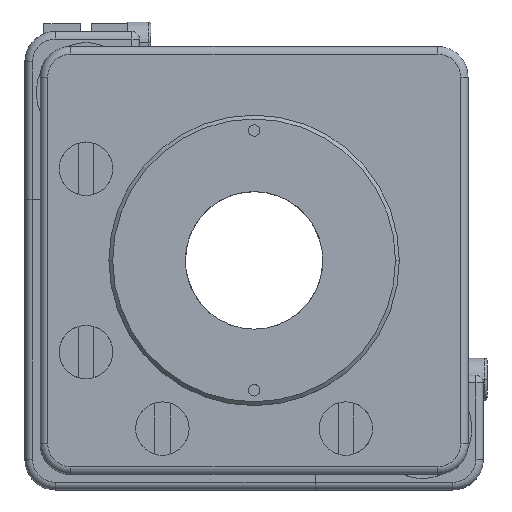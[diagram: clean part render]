
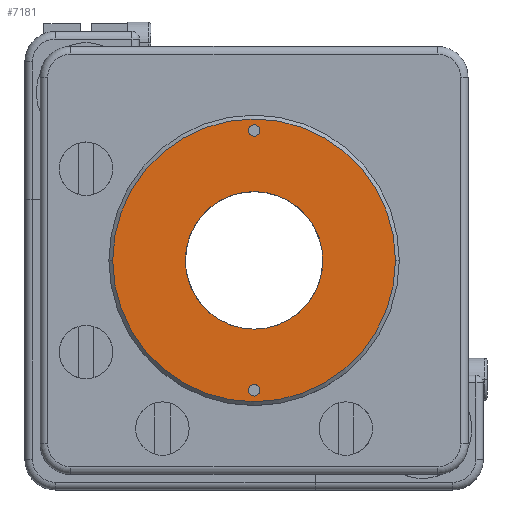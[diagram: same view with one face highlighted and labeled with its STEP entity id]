
A CAD part, top view. The second image highlights one B-rep face of the part: STEP entity #7181.
In plain terms, the highlighted planar face has unit normal (0, 0, 1).
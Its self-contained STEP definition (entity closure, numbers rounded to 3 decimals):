
#147 = ORIENTED_EDGE ( 'NONE', *, *, #16681, .F. ) ;
#667 = VERTEX_POINT ( 'NONE', #8948 ) ;
#1618 = DIRECTION ( 'NONE',  ( 0., 0., 1. ) ) ;
#1679 = DIRECTION ( 'NONE',  ( 0., 0., 1. ) ) ;
#1809 = CIRCLE ( 'NONE', #12187, 0.75 ) ;
#1869 = EDGE_LOOP ( 'NONE', ( #5632, #9952 ) ) ;
#2575 = VERTEX_POINT ( 'NONE', #20808 ) ;
#2887 = DIRECTION ( 'NONE',  ( 0., 0., 1. ) ) ;
#2952 = DIRECTION ( 'NONE',  ( 1., 0., 0. ) ) ;
#3269 = CARTESIAN_POINT ( 'NONE',  ( 1.496, -0.23, 28. ) ) ;
#3643 = VERTEX_POINT ( 'NONE', #19716 ) ;
#4001 = DIRECTION ( 'NONE',  ( 0., 0., 1. ) ) ;
#4397 = DIRECTION ( 'NONE',  ( 0., 0., 1. ) ) ;
#4931 = DIRECTION ( 'NONE',  ( 0., 0., 1. ) ) ;
#5031 = DIRECTION ( 'NONE',  ( 1., 0., 0. ) ) ;
#5632 = ORIENTED_EDGE ( 'NONE', *, *, #18279, .F. ) ;
#5983 = ORIENTED_EDGE ( 'NONE', *, *, #15258, .T. ) ;
#6154 = CARTESIAN_POINT ( 'NONE',  ( 0.746, 16.77, 28. ) ) ;
#6928 = EDGE_LOOP ( 'NONE', ( #11648, #147 ) ) ;
#6949 = CIRCLE ( 'NONE', #6961, 0.75 ) ;
#6961 = AXIS2_PLACEMENT_3D ( 'NONE', #13337, #2887, #15098 ) ;
#7181 = ADVANCED_FACE ( 'NONE', ( #10446, #9366, #12121, #9905 ), #18582, .T. ) ;
#7372 = CARTESIAN_POINT ( 'NONE',  ( 2.246, -17.23, 28. ) ) ;
#7411 = DIRECTION ( 'NONE',  ( 0., 0., 1. ) ) ;
#7665 = VERTEX_POINT ( 'NONE', #15764 ) ;
#7806 = AXIS2_PLACEMENT_3D ( 'NONE', #3269, #15490, #5031 ) ;
#7867 = EDGE_LOOP ( 'NONE', ( #15197, #5983 ) ) ;
#8032 = EDGE_LOOP ( 'NONE', ( #10328, #13406 ) ) ;
#8059 = CIRCLE ( 'NONE', #8571, 0.75 ) ;
#8368 = CIRCLE ( 'NONE', #16758, 9. ) ;
#8571 = AXIS2_PLACEMENT_3D ( 'NONE', #14437, #4001, #16199 ) ;
#8590 = VERTEX_POINT ( 'NONE', #16068 ) ;
#8948 = CARTESIAN_POINT ( 'NONE',  ( 19.996, -0.23, 28. ) ) ;
#9366 = FACE_BOUND ( 'NONE', #1869, .T. ) ;
#9905 = FACE_BOUND ( 'NONE', #6928, .T. ) ;
#9952 = ORIENTED_EDGE ( 'NONE', *, *, #15040, .F. ) ;
#10328 = ORIENTED_EDGE ( 'NONE', *, *, #17888, .F. ) ;
#10446 = FACE_OUTER_BOUND ( 'NONE', #7867, .T. ) ;
#10809 = CIRCLE ( 'NONE', #14097, 9. ) ;
#11332 = CIRCLE ( 'NONE', #18622, 0.75 ) ;
#11648 = ORIENTED_EDGE ( 'NONE', *, *, #17662, .F. ) ;
#12015 = CARTESIAN_POINT ( 'NONE',  ( 10.496, -0.23, 28. ) ) ;
#12086 = CARTESIAN_POINT ( 'NONE',  ( 1.496, -0.23, 28. ) ) ;
#12121 = FACE_BOUND ( 'NONE', #8032, .T. ) ;
#12153 = CARTESIAN_POINT ( 'NONE',  ( 1.496, 16.77, 28. ) ) ;
#12187 = AXIS2_PLACEMENT_3D ( 'NONE', #14851, #4397, #16614 ) ;
#12359 = VERTEX_POINT ( 'NONE', #12015 ) ;
#13337 = CARTESIAN_POINT ( 'NONE',  ( 1.496, -17.23, 28. ) ) ;
#13401 = DIRECTION ( 'NONE',  ( 0., 0., 1. ) ) ;
#13406 = ORIENTED_EDGE ( 'NONE', *, *, #16217, .F. ) ;
#13450 = VERTEX_POINT ( 'NONE', #7372 ) ;
#13858 = DIRECTION ( 'NONE',  ( 1., 0., 0. ) ) ;
#13916 = DIRECTION ( 'NONE',  ( 1., 0., 0. ) ) ;
#14097 = AXIS2_PLACEMENT_3D ( 'NONE', #12086, #1618, #13858 ) ;
#14437 = CARTESIAN_POINT ( 'NONE',  ( 1.496, -17.23, 28. ) ) ;
#14851 = CARTESIAN_POINT ( 'NONE',  ( 1.496, 16.77, 28. ) ) ;
#15040 = EDGE_CURVE ( 'NONE', #8590, #13450, #6949, .T. ) ;
#15098 = DIRECTION ( 'NONE',  ( -1., 0., 0. ) ) ;
#15197 = ORIENTED_EDGE ( 'NONE', *, *, #18243, .T. ) ;
#15258 = EDGE_CURVE ( 'NONE', #667, #7665, #19229, .T. ) ;
#15376 = CARTESIAN_POINT ( 'NONE',  ( 1.496, -0.23, 28. ) ) ;
#15490 = DIRECTION ( 'NONE',  ( 0., 0., 1. ) ) ;
#15764 = CARTESIAN_POINT ( 'NONE',  ( -17.004, -0.23, 28. ) ) ;
#16068 = CARTESIAN_POINT ( 'NONE',  ( 0.746, -17.23, 28. ) ) ;
#16199 = DIRECTION ( 'NONE',  ( -1., 0., 0. ) ) ;
#16217 = EDGE_CURVE ( 'NONE', #16250, #2575, #1809, .T. ) ;
#16250 = VERTEX_POINT ( 'NONE', #6154 ) ;
#16614 = DIRECTION ( 'NONE',  ( 1., 0., 0. ) ) ;
#16681 = EDGE_CURVE ( 'NONE', #3643, #12359, #10809, .T. ) ;
#16758 = AXIS2_PLACEMENT_3D ( 'NONE', #15376, #4931, #17135 ) ;
#17135 = DIRECTION ( 'NONE',  ( 1., 0., 0. ) ) ;
#17662 = EDGE_CURVE ( 'NONE', #12359, #3643, #8368, .T. ) ;
#17871 = CARTESIAN_POINT ( 'NONE',  ( 1.496, -0.23, 28. ) ) ;
#17888 = EDGE_CURVE ( 'NONE', #2575, #16250, #11332, .T. ) ;
#18243 = EDGE_CURVE ( 'NONE', #7665, #667, #21864, .T. ) ;
#18279 = EDGE_CURVE ( 'NONE', #13450, #8590, #8059, .T. ) ;
#18582 = PLANE ( 'NONE',  #21059 ) ;
#18622 = AXIS2_PLACEMENT_3D ( 'NONE', #12153, #1679, #13916 ) ;
#19229 = CIRCLE ( 'NONE', #7806, 18.5 ) ;
#19604 = DIRECTION ( 'NONE',  ( 1., 0., 0. ) ) ;
#19716 = CARTESIAN_POINT ( 'NONE',  ( -7.504, -0.23, 28. ) ) ;
#19921 = AXIS2_PLACEMENT_3D ( 'NONE', #17871, #7411, #19604 ) ;
#20808 = CARTESIAN_POINT ( 'NONE',  ( 2.246, 16.77, 28. ) ) ;
#21059 = AXIS2_PLACEMENT_3D ( 'NONE', #21987, #13401, #2952 ) ;
#21864 = CIRCLE ( 'NONE', #19921, 18.5 ) ;
#21987 = CARTESIAN_POINT ( 'NONE',  ( 1.496, -0.23, 28. ) ) ;
